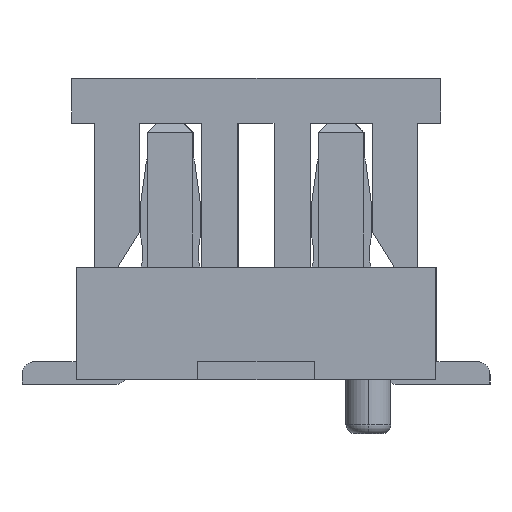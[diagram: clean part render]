
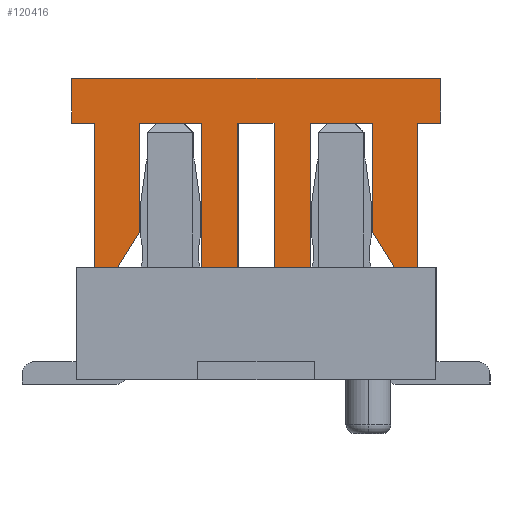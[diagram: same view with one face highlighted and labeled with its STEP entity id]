
A CAD part, left-side view. The second image highlights one B-rep face of the part: STEP entity #120416.
In plain terms, the highlighted planar face has unit normal (-1, 0, 0).
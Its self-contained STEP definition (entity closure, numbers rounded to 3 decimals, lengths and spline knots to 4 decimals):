
#119749=CARTESIAN_POINT('Vertex',(-4.,0.61,1.25)) ;
#119754=CARTESIAN_POINT('Line Origine',(-4.,0.61,2.05)) ;
#119758=CARTESIAN_POINT('Vertex',(-4.,0.61,2.85)) ;
#119785=CARTESIAN_POINT('Line Origine',(-4.,0.95,2.85)) ;
#119789=CARTESIAN_POINT('Vertex',(-4.,1.29,2.85)) ;
#119816=CARTESIAN_POINT('Line Origine',(-4.,1.29,2.25)) ;
#119820=CARTESIAN_POINT('Vertex',(-4.,1.29,1.65)) ;
#119847=CARTESIAN_POINT('Line Origine',(-4.,1.415,1.45)) ;
#119851=CARTESIAN_POINT('Vertex',(-4.,1.54,1.25)) ;
#119878=CARTESIAN_POINT('Line Origine',(-4.,1.665,1.25)) ;
#119882=CARTESIAN_POINT('Vertex',(-4.,1.79,1.25)) ;
#119909=CARTESIAN_POINT('Line Origine',(-4.,1.79,2.05)) ;
#119913=CARTESIAN_POINT('Vertex',(-4.,1.79,2.85)) ;
#119935=CARTESIAN_POINT('Line Origine',(-4.,1.92,2.85)) ;
#119939=CARTESIAN_POINT('Vertex',(-4.,2.05,2.85)) ;
#119966=CARTESIAN_POINT('Line Origine',(-4.,2.05,3.1)) ;
#119970=CARTESIAN_POINT('Vertex',(-4.,2.05,3.35)) ;
#119997=CARTESIAN_POINT('Line Origine',(-4.,0.,3.35)) ;
#120001=CARTESIAN_POINT('Vertex',(-4.,-2.05,3.35)) ;
#120028=CARTESIAN_POINT('Line Origine',(-4.,-2.05,3.1)) ;
#120032=CARTESIAN_POINT('Vertex',(-4.,-2.05,2.85)) ;
#120054=CARTESIAN_POINT('Line Origine',(-4.,-1.92,2.85)) ;
#120058=CARTESIAN_POINT('Vertex',(-4.,-1.79,2.85)) ;
#120085=CARTESIAN_POINT('Line Origine',(-4.,-1.79,2.05)) ;
#120089=CARTESIAN_POINT('Vertex',(-4.,-1.79,1.25)) ;
#120111=CARTESIAN_POINT('Line Origine',(-4.,-1.665,1.25)) ;
#120115=CARTESIAN_POINT('Vertex',(-4.,-1.54,1.25)) ;
#120142=CARTESIAN_POINT('Line Origine',(-4.,-1.415,1.45)) ;
#120146=CARTESIAN_POINT('Vertex',(-4.,-1.29,1.65)) ;
#120173=CARTESIAN_POINT('Line Origine',(-4.,-1.29,2.25)) ;
#120177=CARTESIAN_POINT('Vertex',(-4.,-1.29,2.85)) ;
#120199=CARTESIAN_POINT('Line Origine',(-4.,-0.95,2.85)) ;
#120203=CARTESIAN_POINT('Vertex',(-4.,-0.61,2.85)) ;
#120230=CARTESIAN_POINT('Line Origine',(-4.,-0.61,2.05)) ;
#120234=CARTESIAN_POINT('Vertex',(-4.,-0.61,1.25)) ;
#120256=CARTESIAN_POINT('Line Origine',(-4.,-0.405,1.25)) ;
#120260=CARTESIAN_POINT('Vertex',(-4.,-0.2,1.25)) ;
#120287=CARTESIAN_POINT('Line Origine',(-4.,-0.2,2.05)) ;
#120291=CARTESIAN_POINT('Vertex',(-4.,-0.2,2.85)) ;
#120313=CARTESIAN_POINT('Line Origine',(-4.,0.,2.85)) ;
#120317=CARTESIAN_POINT('Vertex',(-4.,0.2,2.85)) ;
#120344=CARTESIAN_POINT('Line Origine',(-4.,0.2,2.05)) ;
#120348=CARTESIAN_POINT('Vertex',(-4.,0.2,1.25)) ;
#120370=CARTESIAN_POINT('Line Origine',(-4.,0.405,1.25)) ;
#120387=CARTESIAN_POINT('Axis2P3D Location',(-4.,0.,0.)) ;
#119755=DIRECTION('Vector Direction',(0.,0.,1.)) ;
#119786=DIRECTION('Vector Direction',(0.,1.,0.)) ;
#119817=DIRECTION('Vector Direction',(0.,0.,-1.)) ;
#119848=DIRECTION('Vector Direction',(0.,0.53,-0.848)) ;
#119879=DIRECTION('Vector Direction',(0.,1.,0.)) ;
#119910=DIRECTION('Vector Direction',(0.,0.,1.)) ;
#119936=DIRECTION('Vector Direction',(0.,1.,0.)) ;
#119967=DIRECTION('Vector Direction',(0.,0.,1.)) ;
#119998=DIRECTION('Vector Direction',(0.,1.,0.)) ;
#120029=DIRECTION('Vector Direction',(0.,0.,1.)) ;
#120055=DIRECTION('Vector Direction',(0.,-1.,0.)) ;
#120086=DIRECTION('Vector Direction',(0.,0.,1.)) ;
#120112=DIRECTION('Vector Direction',(0.,-1.,0.)) ;
#120143=DIRECTION('Vector Direction',(0.,-0.53,-0.848)) ;
#120174=DIRECTION('Vector Direction',(0.,0.,-1.)) ;
#120200=DIRECTION('Vector Direction',(0.,-1.,0.)) ;
#120231=DIRECTION('Vector Direction',(0.,0.,1.)) ;
#120257=DIRECTION('Vector Direction',(0.,-1.,0.)) ;
#120288=DIRECTION('Vector Direction',(0.,0.,1.)) ;
#120314=DIRECTION('Vector Direction',(0.,1.,0.)) ;
#120345=DIRECTION('Vector Direction',(0.,0.,-1.)) ;
#120371=DIRECTION('Vector Direction',(0.,-1.,0.)) ;
#120388=DIRECTION('Axis2P3D Direction',(1.,0.,0.)) ;
#120389=DIRECTION('Axis2P3D XDirection',(0.,1.,0.)) ;
#120390=AXIS2_PLACEMENT_3D('Plane Axis2P3D',#120387,#120388,#120389) ;
#120393=ORIENTED_EDGE('',*,*,#120374,.F.) ;
#120394=ORIENTED_EDGE('',*,*,#120350,.F.) ;
#120395=ORIENTED_EDGE('',*,*,#120319,.F.) ;
#120396=ORIENTED_EDGE('',*,*,#120293,.F.) ;
#120397=ORIENTED_EDGE('',*,*,#120262,.F.) ;
#120398=ORIENTED_EDGE('',*,*,#120236,.F.) ;
#120399=ORIENTED_EDGE('',*,*,#120205,.F.) ;
#120400=ORIENTED_EDGE('',*,*,#120179,.F.) ;
#120401=ORIENTED_EDGE('',*,*,#120148,.F.) ;
#120402=ORIENTED_EDGE('',*,*,#120117,.F.) ;
#120403=ORIENTED_EDGE('',*,*,#120091,.F.) ;
#120404=ORIENTED_EDGE('',*,*,#120060,.F.) ;
#120405=ORIENTED_EDGE('',*,*,#120034,.F.) ;
#120406=ORIENTED_EDGE('',*,*,#120003,.F.) ;
#120407=ORIENTED_EDGE('',*,*,#119972,.F.) ;
#120408=ORIENTED_EDGE('',*,*,#119941,.F.) ;
#120409=ORIENTED_EDGE('',*,*,#119915,.F.) ;
#120410=ORIENTED_EDGE('',*,*,#119884,.F.) ;
#120411=ORIENTED_EDGE('',*,*,#119853,.F.) ;
#120412=ORIENTED_EDGE('',*,*,#119822,.F.) ;
#120413=ORIENTED_EDGE('',*,*,#119791,.F.) ;
#120414=ORIENTED_EDGE('',*,*,#119760,.F.) ;
#119756=VECTOR('Line Direction',#119755,1.) ;
#119787=VECTOR('Line Direction',#119786,1.) ;
#119818=VECTOR('Line Direction',#119817,1.) ;
#119849=VECTOR('Line Direction',#119848,1.) ;
#119880=VECTOR('Line Direction',#119879,1.) ;
#119911=VECTOR('Line Direction',#119910,1.) ;
#119937=VECTOR('Line Direction',#119936,1.) ;
#119968=VECTOR('Line Direction',#119967,1.) ;
#119999=VECTOR('Line Direction',#119998,1.) ;
#120030=VECTOR('Line Direction',#120029,1.) ;
#120056=VECTOR('Line Direction',#120055,1.) ;
#120087=VECTOR('Line Direction',#120086,1.) ;
#120113=VECTOR('Line Direction',#120112,1.) ;
#120144=VECTOR('Line Direction',#120143,1.) ;
#120175=VECTOR('Line Direction',#120174,1.) ;
#120201=VECTOR('Line Direction',#120200,1.) ;
#120232=VECTOR('Line Direction',#120231,1.) ;
#120258=VECTOR('Line Direction',#120257,1.) ;
#120289=VECTOR('Line Direction',#120288,1.) ;
#120315=VECTOR('Line Direction',#120314,1.) ;
#120346=VECTOR('Line Direction',#120345,1.) ;
#120372=VECTOR('Line Direction',#120371,1.) ;
#120416=ADVANCED_FACE('\X2\76D65B50\X0\',(#120415),#120391,.F.) ;
#119760=EDGE_CURVE('',#119750,#119759,#119757,.T.) ;
#119791=EDGE_CURVE('',#119759,#119790,#119788,.T.) ;
#119822=EDGE_CURVE('',#119790,#119821,#119819,.T.) ;
#119853=EDGE_CURVE('',#119821,#119852,#119850,.T.) ;
#119884=EDGE_CURVE('',#119852,#119883,#119881,.T.) ;
#119915=EDGE_CURVE('',#119883,#119914,#119912,.T.) ;
#119941=EDGE_CURVE('',#119914,#119940,#119938,.T.) ;
#119972=EDGE_CURVE('',#119940,#119971,#119969,.T.) ;
#120003=EDGE_CURVE('',#119971,#120002,#120000,.F.) ;
#120034=EDGE_CURVE('',#120002,#120033,#120031,.F.) ;
#120060=EDGE_CURVE('',#120033,#120059,#120057,.F.) ;
#120091=EDGE_CURVE('',#120059,#120090,#120088,.F.) ;
#120117=EDGE_CURVE('',#120090,#120116,#120114,.F.) ;
#120148=EDGE_CURVE('',#120116,#120147,#120145,.F.) ;
#120179=EDGE_CURVE('',#120147,#120178,#120176,.F.) ;
#120205=EDGE_CURVE('',#120178,#120204,#120202,.F.) ;
#120236=EDGE_CURVE('',#120204,#120235,#120233,.F.) ;
#120262=EDGE_CURVE('',#120235,#120261,#120259,.F.) ;
#120293=EDGE_CURVE('',#120261,#120292,#120290,.T.) ;
#120319=EDGE_CURVE('',#120292,#120318,#120316,.T.) ;
#120350=EDGE_CURVE('',#120318,#120349,#120347,.T.) ;
#120374=EDGE_CURVE('',#120349,#119750,#120373,.F.) ;
#120392=EDGE_LOOP('',(#120393,#120394,#120395,#120396,#120397,#120398,#120399,#120400,#120401,#120402,#120403,#120404,#120405,#120406,#120407,#120408,#120409,#120410,#120411,#120412,#120413,#120414)) ;
#120415=FACE_OUTER_BOUND('',#120392,.T.) ;
#119757=LINE('Line',#119754,#119756) ;
#119788=LINE('Line',#119785,#119787) ;
#119819=LINE('Line',#119816,#119818) ;
#119850=LINE('Line',#119847,#119849) ;
#119881=LINE('Line',#119878,#119880) ;
#119912=LINE('Line',#119909,#119911) ;
#119938=LINE('Line',#119935,#119937) ;
#119969=LINE('Line',#119966,#119968) ;
#120000=LINE('Line',#119997,#119999) ;
#120031=LINE('Line',#120028,#120030) ;
#120057=LINE('Line',#120054,#120056) ;
#120088=LINE('Line',#120085,#120087) ;
#120114=LINE('Line',#120111,#120113) ;
#120145=LINE('Line',#120142,#120144) ;
#120176=LINE('Line',#120173,#120175) ;
#120202=LINE('Line',#120199,#120201) ;
#120233=LINE('Line',#120230,#120232) ;
#120259=LINE('Line',#120256,#120258) ;
#120290=LINE('Line',#120287,#120289) ;
#120316=LINE('Line',#120313,#120315) ;
#120347=LINE('Line',#120344,#120346) ;
#120373=LINE('Line',#120370,#120372) ;
#120391=PLANE('Plane',#120390) ;
#119750=VERTEX_POINT('',#119749) ;
#119759=VERTEX_POINT('',#119758) ;
#119790=VERTEX_POINT('',#119789) ;
#119821=VERTEX_POINT('',#119820) ;
#119852=VERTEX_POINT('',#119851) ;
#119883=VERTEX_POINT('',#119882) ;
#119914=VERTEX_POINT('',#119913) ;
#119940=VERTEX_POINT('',#119939) ;
#119971=VERTEX_POINT('',#119970) ;
#120002=VERTEX_POINT('',#120001) ;
#120033=VERTEX_POINT('',#120032) ;
#120059=VERTEX_POINT('',#120058) ;
#120090=VERTEX_POINT('',#120089) ;
#120116=VERTEX_POINT('',#120115) ;
#120147=VERTEX_POINT('',#120146) ;
#120178=VERTEX_POINT('',#120177) ;
#120204=VERTEX_POINT('',#120203) ;
#120235=VERTEX_POINT('',#120234) ;
#120261=VERTEX_POINT('',#120260) ;
#120292=VERTEX_POINT('',#120291) ;
#120318=VERTEX_POINT('',#120317) ;
#120349=VERTEX_POINT('',#120348) ;
